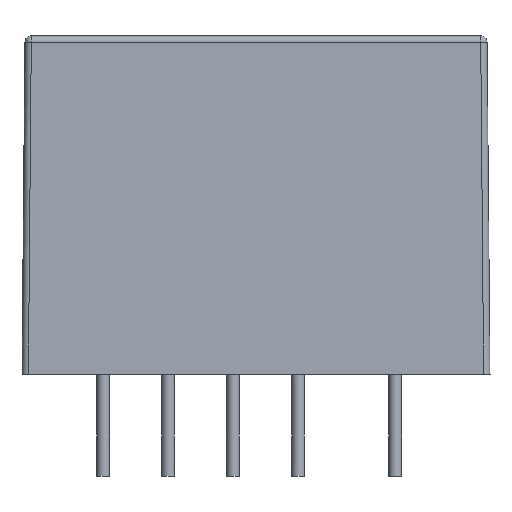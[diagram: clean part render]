
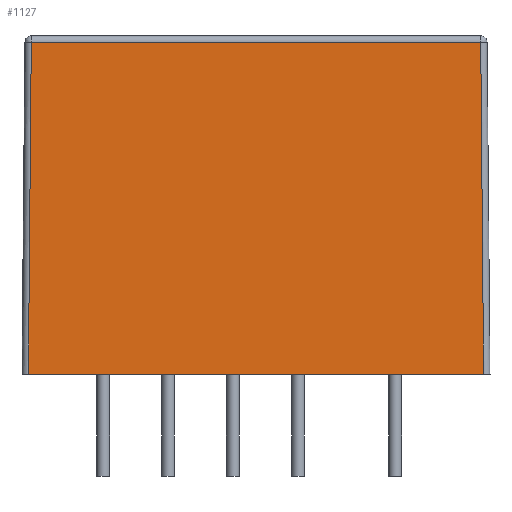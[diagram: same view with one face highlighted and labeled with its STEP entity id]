
A CAD part, front view. The second image highlights one B-rep face of the part: STEP entity #1127.
In plain terms, the highlighted planar face has unit normal (0, -1, 0.009).
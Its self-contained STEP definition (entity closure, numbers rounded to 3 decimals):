
#63=DIRECTION('',(-1.,0.,0.));
#64=VECTOR('',#63,35.66);
#65=CARTESIAN_POINT('',(17.83,-13.58,0.));
#66=LINE('',#65,#64);
#197=DIRECTION('',(1.,0.,0.));
#198=VECTOR('',#197,35.206);
#199=CARTESIAN_POINT('',(-17.603,-13.353,26.004));
#200=LINE('',#199,#198);
#260=CARTESIAN_POINT('',(17.83,-13.58,0.));
#268=DIRECTION('',(-0.009,-0.009,-1.));
#269=VECTOR('',#268,26.006);
#270=CARTESIAN_POINT('',(-17.603,-13.353,26.004));
#271=LINE('',#270,#269);
#272=DIRECTION('',(-0.009,0.009,1.));
#273=VECTOR('',#272,26.006);
#274=CARTESIAN_POINT('',(17.83,-13.58,0.));
#275=LINE('',#274,#273);
#675=CARTESIAN_POINT('',(-17.603,-13.353,26.004));
#676=CARTESIAN_POINT('',(17.603,-13.353,26.004));
#677=VERTEX_POINT('',#675);
#678=VERTEX_POINT('',#676);
#679=CARTESIAN_POINT('',(-17.83,-13.58,0.));
#680=VERTEX_POINT('',#679);
#769=VERTEX_POINT('',#260);
#1115=CARTESIAN_POINT('',(-18.33,-13.58,0.));
#1116=DIRECTION('',(0.,-1.,0.009));
#1117=DIRECTION('',(0.,-0.009,-1.));
#1118=AXIS2_PLACEMENT_3D('',#1115,#1116,#1117);
#1119=PLANE('',#1118);
#1120=ORIENTED_EDGE('',*,*,#870,.T.);
#1122=ORIENTED_EDGE('',*,*,#1121,.F.);
#1123=ORIENTED_EDGE('',*,*,#1038,.T.);
#1124=ORIENTED_EDGE('',*,*,#1107,.F.);
#1125=EDGE_LOOP('',(#1120,#1122,#1123,#1124));
#1126=FACE_OUTER_BOUND('',#1125,.F.);
#870=EDGE_CURVE('',#769,#680,#66,.T.);
#1038=EDGE_CURVE('',#677,#678,#200,.T.);
#1107=EDGE_CURVE('',#769,#678,#275,.T.);
#1121=EDGE_CURVE('',#677,#680,#271,.T.);
#1127=ADVANCED_FACE('',(#1126),#1119,.T.);
